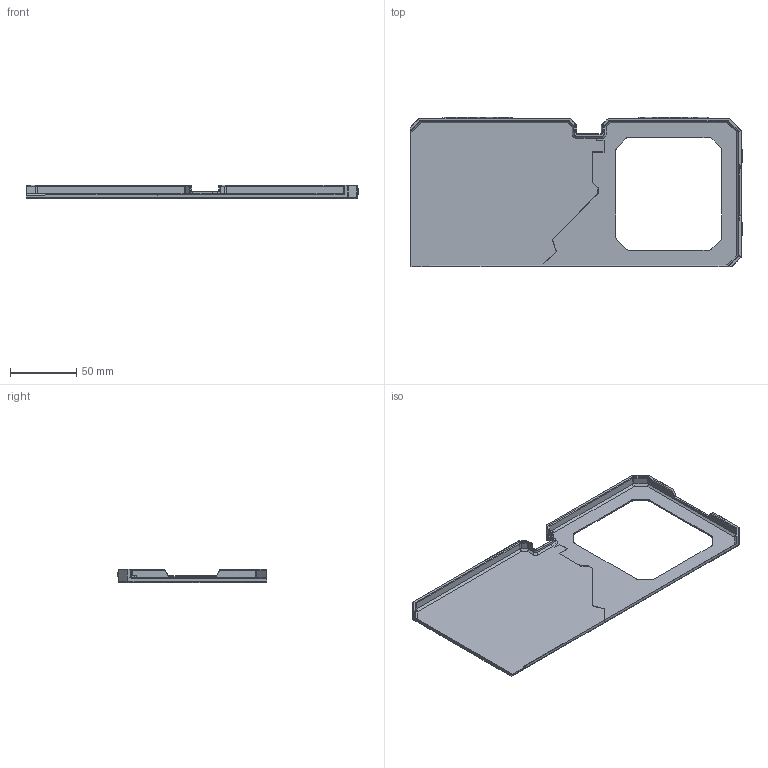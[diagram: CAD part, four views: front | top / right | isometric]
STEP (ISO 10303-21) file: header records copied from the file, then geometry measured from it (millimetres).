
FILE_DESCRIPTION((''),'2;1');
FILE_NAME('F311_MAKER_BACKPLATE','2023-11-08T16:25:17',('Kate'),(''),'CREO PARAMETRIC BY PTC INC, 2020281','CREO PARAMETRIC BY PTC INC, 2020281','');
FILE_SCHEMA(('CONFIG_CONTROL_DESIGN'));
Length unit declared in the file: millimetre
Products named in the file (1): F311_MAKER_BACKPLATE
Bounding box: 250.7 x 112.7 x 10 mm (x, y, z)
Volume: 43236.4 mm3; surface area: 53350.6 mm2
Topology: 2 solids, 2 shells, 1126 faces, 2988 edges, 1897 vertices
Faces by surface type: plane 631, cylinder 303, torus 65, bspline 61, cone 42, sphere 14, extrusion 10
Entity records: 39115 total; most frequent: CARTESIAN_POINT 11194, ORIENTED_EDGE 5942, DIRECTION 5693, EDGE_CURVE 2971, VECTOR 1953, LINE 1943, VERTEX_POINT 1897, AXIS2_PLACEMENT_3D 1870
